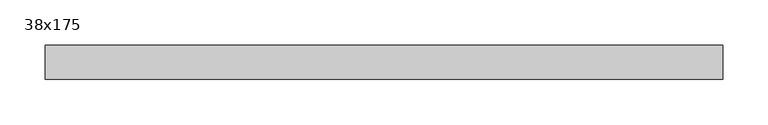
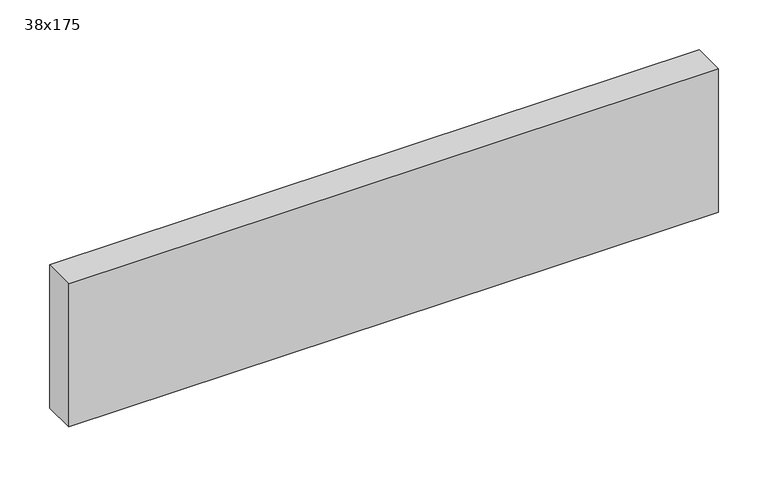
"""IFC4 building model written with IfcOpenShell, lengths in millimetres: beam geometry, Graded Timber : 38x175."""

from ifc_helpers import new_model, si_unit, frame, origin, place, context, project, spatial, polyline, outline, extrude, source, transform, mapped, element, save


def beam_38x175_d744822a(model_context):
    return source(origin(), model_context, "Body", "SweptSolid", [
        extrude(outline(polyline([(380.7862749, 19.0), (380.7862749, -19.0), (-369.500563, -19.0), (-369.500563, 19.0), (380.7862749, 19.0)])), frame((0.0, 0.0, -87.5), z_axis=(0.0, 0.0, 1.0), x_axis=(1.0, 0.0, 0.0)), (0.0, 0.0, 1.0), 175.0),
    ])


if __name__ == "__main__":
    model = new_model("IFC4")
    model_context = context("Model", 3, world=origin())
    ifc_project = project(units=[si_unit("LENGTHUNIT", "METRE", prefix="MILLI")], contexts=[model_context])
    site = spatial("IfcSite", under=ifc_project)
    building = spatial("IfcBuilding", under=site)
    placement = place(None, origin())
    beam_38x175_shape = beam_38x175_d744822a(model_context)
    element("IfcBeam", 1, ObjectType="Graded Timber : 38x175", at=placement, inside=building, context=model_context, shape_type="MappedRepresentation", body=[
        mapped(beam_38x175_shape, transform((0.0, 0.0, 0.0), x_axis=(1.0, 0.0, 0.0), y_axis=(0.0, 1.0, 0.0), z_axis=(0.0, 0.0, 1.0))),
    ])
    save(model, "model.ifc")
